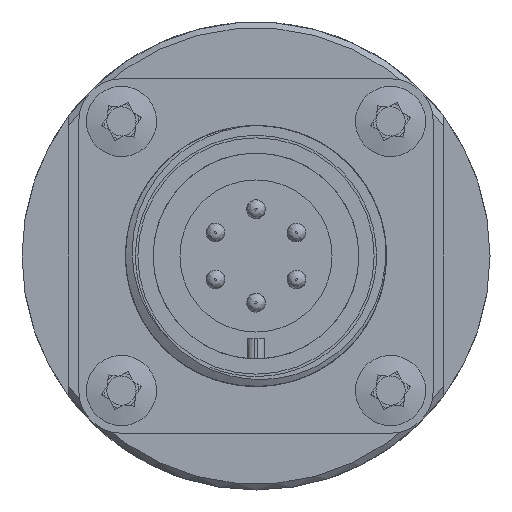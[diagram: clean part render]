
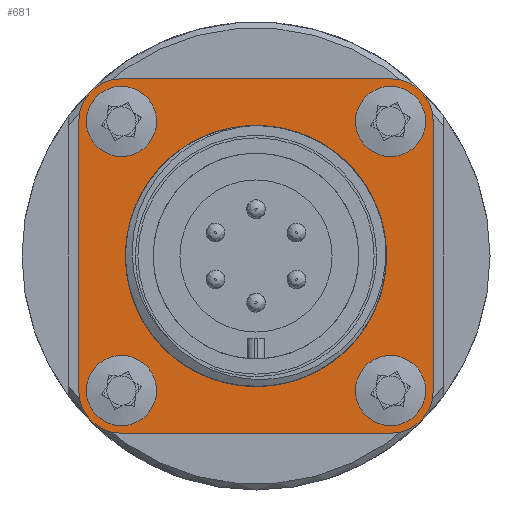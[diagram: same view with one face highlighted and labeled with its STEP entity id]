
A CAD part, front view. The second image highlights one B-rep face of the part: STEP entity #681.
In plain terms, the highlighted planar face has unit normal (0, -1, 0) as drawn and (-1, 0, 0) by its records, which use the part's own axes.
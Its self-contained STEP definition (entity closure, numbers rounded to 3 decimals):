
#681 = ADVANCED_FACE( '', ( #1351, #1352, #1353, #1354, #1355, #1356 ), #1357, .F. );
#1351 = FACE_BOUND( '', #5204, .T. );
#1352 = FACE_BOUND( '', #5205, .T. );
#1353 = FACE_OUTER_BOUND( '', #5206, .T. );
#1354 = FACE_BOUND( '', #5207, .T. );
#1355 = FACE_BOUND( '', #5208, .T. );
#1356 = FACE_BOUND( '', #5209, .T. );
#1357 = PLANE( '', #5210 );
#5204 = EDGE_LOOP( '', ( #7773 ) );
#5205 = EDGE_LOOP( '', ( #7774 ) );
#5206 = EDGE_LOOP( '', ( #7775, #7776, #7777, #7778, #7779, #7780, #7781, #7782 ) );
#5207 = EDGE_LOOP( '', ( #7783 ) );
#5208 = EDGE_LOOP( '', ( #7784 ) );
#5209 = EDGE_LOOP( '', ( #7785 ) );
#5210 = AXIS2_PLACEMENT_3D( '', #7786, #7787, #7788 );
#7773 = ORIENTED_EDGE( '', *, *, #8454, .T. );
#7774 = ORIENTED_EDGE( '', *, *, #8431, .T. );
#7775 = ORIENTED_EDGE( '', *, *, #8246, .F. );
#7776 = ORIENTED_EDGE( '', *, *, #8184, .F. );
#7777 = ORIENTED_EDGE( '', *, *, #8548, .F. );
#7778 = ORIENTED_EDGE( '', *, *, #8549, .F. );
#7779 = ORIENTED_EDGE( '', *, *, #8543, .F. );
#7780 = ORIENTED_EDGE( '', *, *, #8550, .F. );
#7781 = ORIENTED_EDGE( '', *, *, #8447, .F. );
#7782 = ORIENTED_EDGE( '', *, *, #8397, .F. );
#7783 = ORIENTED_EDGE( '', *, *, #8532, .T. );
#7784 = ORIENTED_EDGE( '', *, *, #8551, .T. );
#7785 = ORIENTED_EDGE( '', *, *, #8264, .T. );
#7786 = CARTESIAN_POINT( '', ( -2.4, -11.5, 11.5 ) );
#7787 = DIRECTION( '', ( 1., 0., 0. ) );
#7788 = DIRECTION( '', ( 0., 1., 0. ) );
#8184 = EDGE_CURVE( '', #8765, #8767, #8768, .T. );
#8246 = EDGE_CURVE( '', #8767, #8872, #8873, .T. );
#8264 = EDGE_CURVE( '', #8900, #8900, #8901, .T. );
#8397 = EDGE_CURVE( '', #8872, #9107, #9108, .T. );
#8431 = EDGE_CURVE( '', #9153, #9153, #9154, .T. );
#8447 = EDGE_CURVE( '', #9107, #9173, #9174, .T. );
#8454 = EDGE_CURVE( '', #9183, #9183, #9184, .T. );
#8532 = EDGE_CURVE( '', #9281, #9281, #9282, .T. );
#8543 = EDGE_CURVE( '', #9294, #9296, #9297, .T. );
#8548 = EDGE_CURVE( '', #9303, #8765, #9304, .T. );
#8549 = EDGE_CURVE( '', #9296, #9303, #9305, .T. );
#8550 = EDGE_CURVE( '', #9173, #9294, #9306, .T. );
#8551 = EDGE_CURVE( '', #9307, #9307, #9308, .T. );
#8765 = VERTEX_POINT( '', #10641 );
#8767 = VERTEX_POINT( '', #10644 );
#8768 = LINE( '', #10645, #10646 );
#8872 = VERTEX_POINT( '', #10837 );
#8873 = CIRCLE( '', #10838, 3.65 );
#8900 = VERTEX_POINT( '', #10867 );
#8901 = CIRCLE( '', #10868, 1.5 );
#9107 = VERTEX_POINT( '', #11568 );
#9108 = LINE( '', #11569, #11570 );
#9153 = VERTEX_POINT( '', #12408 );
#9154 = CIRCLE( '', #12409, 1.5 );
#9173 = VERTEX_POINT( '', #12666 );
#9174 = CIRCLE( '', #12667, 3.65 );
#9183 = VERTEX_POINT( '', #12679 );
#9184 = CIRCLE( '', #12680, 11.15 );
#9281 = VERTEX_POINT( '', #12862 );
#9282 = CIRCLE( '', #12863, 1.5 );
#9294 = VERTEX_POINT( '', #12877 );
#9296 = VERTEX_POINT( '', #12880 );
#9297 = CIRCLE( '', #12881, 3.65 );
#9303 = VERTEX_POINT( '', #12888 );
#9304 = CIRCLE( '', #12889, 3.65 );
#9305 = LINE( '', #12890, #12891 );
#9306 = LINE( '', #12892, #12893 );
#9307 = VERTEX_POINT( '', #12894 );
#9308 = CIRCLE( '', #12895, 1.5 );
#10641 = CARTESIAN_POINT( '', ( -2.4, 11.5, 15.15 ) );
#10644 = CARTESIAN_POINT( '', ( -2.4, -11.5, 15.15 ) );
#10645 = CARTESIAN_POINT( '', ( -2.4, -11.5, 15.15 ) );
#10646 = VECTOR( '', #13355, 1000. );
#10837 = CARTESIAN_POINT( '', ( -2.4, -15.15, 11.5 ) );
#10838 = AXIS2_PLACEMENT_3D( '', #13433, #13434, #13435 );
#10867 = CARTESIAN_POINT( '', ( -2.4, -10., -11.5 ) );
#10868 = AXIS2_PLACEMENT_3D( '', #13471, #13472, #13473 );
#11568 = CARTESIAN_POINT( '', ( -2.4, -15.15, -11.5 ) );
#11569 = CARTESIAN_POINT( '', ( -2.4, -15.15, 11.5 ) );
#11570 = VECTOR( '', #13646, 1000. );
#12408 = CARTESIAN_POINT( '', ( -2.4, -10., 11.5 ) );
#12409 = AXIS2_PLACEMENT_3D( '', #13669, #13670, #13671 );
#12666 = CARTESIAN_POINT( '', ( -2.4, -11.5, -15.15 ) );
#12667 = AXIS2_PLACEMENT_3D( '', #13679, #13680, #13681 );
#12679 = CARTESIAN_POINT( '', ( -2.4, 11.15, 0. ) );
#12680 = AXIS2_PLACEMENT_3D( '', #13688, #13689, #13690 );
#12862 = CARTESIAN_POINT( '', ( -2.4, 13., 11.5 ) );
#12863 = AXIS2_PLACEMENT_3D( '', #13759, #13760, #13761 );
#12877 = CARTESIAN_POINT( '', ( -2.4, 11.5, -15.15 ) );
#12880 = CARTESIAN_POINT( '', ( -2.4, 15.15, -11.5 ) );
#12881 = AXIS2_PLACEMENT_3D( '', #13771, #13772, #13773 );
#12888 = CARTESIAN_POINT( '', ( -2.4, 15.15, 11.5 ) );
#12889 = AXIS2_PLACEMENT_3D( '', #13778, #13779, #13780 );
#12890 = CARTESIAN_POINT( '', ( -2.4, 15.15, 11.5 ) );
#12891 = VECTOR( '', #13781, 1000. );
#12892 = CARTESIAN_POINT( '', ( -2.4, -11.5, -15.15 ) );
#12893 = VECTOR( '', #13782, 1000. );
#12894 = CARTESIAN_POINT( '', ( -2.4, 13., -11.5 ) );
#12895 = AXIS2_PLACEMENT_3D( '', #13783, #13784, #13785 );
#13355 = DIRECTION( '', ( 0., -1., 0. ) );
#13433 = CARTESIAN_POINT( '', ( -2.4, -11.5, 11.5 ) );
#13434 = DIRECTION( '', ( 1., 0., 0. ) );
#13435 = DIRECTION( '', ( 0., 1., 0. ) );
#13471 = CARTESIAN_POINT( '', ( -2.4, -11.5, -11.5 ) );
#13472 = DIRECTION( '', ( 1., 0., 0. ) );
#13473 = DIRECTION( '', ( 0., 1., 0. ) );
#13646 = DIRECTION( '', ( 0., 0., -1. ) );
#13669 = CARTESIAN_POINT( '', ( -2.4, -11.5, 11.5 ) );
#13670 = DIRECTION( '', ( 1., 0., 0. ) );
#13671 = DIRECTION( '', ( 0., 1., 0. ) );
#13679 = CARTESIAN_POINT( '', ( -2.4, -11.5, -11.5 ) );
#13680 = DIRECTION( '', ( 1., 0., 0. ) );
#13681 = DIRECTION( '', ( 0., 1., 0. ) );
#13688 = CARTESIAN_POINT( '', ( -2.4, 0., 0. ) );
#13689 = DIRECTION( '', ( 1., 0., 0. ) );
#13690 = DIRECTION( '', ( 0., 1., 0. ) );
#13759 = CARTESIAN_POINT( '', ( -2.4, 11.5, 11.5 ) );
#13760 = DIRECTION( '', ( 1., 0., 0. ) );
#13761 = DIRECTION( '', ( 0., 1., 0. ) );
#13771 = CARTESIAN_POINT( '', ( -2.4, 11.5, -11.5 ) );
#13772 = DIRECTION( '', ( 1., 0., 0. ) );
#13773 = DIRECTION( '', ( 0., -1., 0. ) );
#13778 = CARTESIAN_POINT( '', ( -2.4, 11.5, 11.5 ) );
#13779 = DIRECTION( '', ( 1., 0., 0. ) );
#13780 = DIRECTION( '', ( 0., 1., 0. ) );
#13781 = DIRECTION( '', ( 0., 0., 1. ) );
#13782 = DIRECTION( '', ( 0., 1., 0. ) );
#13783 = CARTESIAN_POINT( '', ( -2.4, 11.5, -11.5 ) );
#13784 = DIRECTION( '', ( 1., 0., 0. ) );
#13785 = DIRECTION( '', ( 0., 1., 0. ) );
